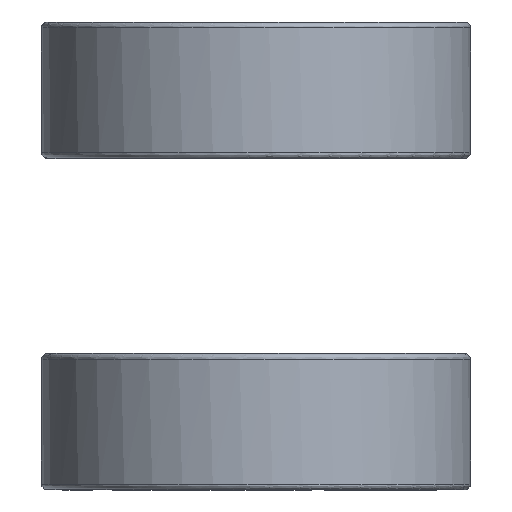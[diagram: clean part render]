
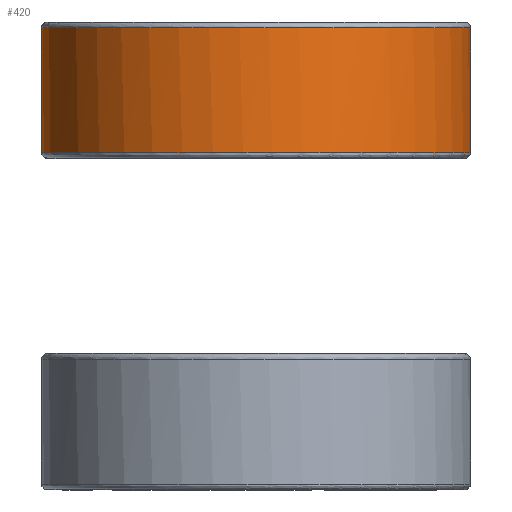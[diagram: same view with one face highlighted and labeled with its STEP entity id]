
A CAD part, left-side view. The second image highlights one B-rep face of the part: STEP entity #420.
In plain terms, the highlighted cylindrical face has radius 11 mm (diameter 22 mm), a partial arc.
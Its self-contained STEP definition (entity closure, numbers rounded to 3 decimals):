
#420=ADVANCED_FACE('',(#804),#5266,.T.);
#804=FACE_OUTER_BOUND('',#1260,.T.);
#1260=EDGE_LOOP('',(#2508,#2509,#2510,#2511));
#2508=ORIENTED_EDGE('',*,*,#3475,.T.);
#2509=ORIENTED_EDGE('',*,*,#3455,.T.);
#2510=ORIENTED_EDGE('',*,*,#3454,.T.);
#2511=ORIENTED_EDGE('',*,*,#3480,.F.);
#3454=EDGE_CURVE('',#4792,#4808,#4287,.T.);
#3455=EDGE_CURVE('',#4790,#4792,#3835,.T.);
#3475=EDGE_CURVE('',#4805,#4790,#4302,.T.);
#3480=EDGE_CURVE('',#4805,#4808,#3842,.T.);
#3835=B_SPLINE_CURVE_WITH_KNOTS('',1,(#11430,#11431),.UNSPECIFIED.,.F.,
 .F.,(2,2),(0.64,7.04),.UNSPECIFIED.);
#3842=B_SPLINE_CURVE_WITH_KNOTS('',1,(#11528,#11529),.UNSPECIFIED.,.F.,
 .F.,(2,2),(0.64,7.04),.UNSPECIFIED.);
#4287=(
BOUNDED_CURVE()
B_SPLINE_CURVE(2,(#11425,#11426,#11427,#11428,#11429),.UNSPECIFIED.,.F.,
 .F.)
B_SPLINE_CURVE_WITH_KNOTS((3,2,3),(0.,17.279,34.558),
 .UNSPECIFIED.)
CURVE()
GEOMETRIC_REPRESENTATION_ITEM()
RATIONAL_B_SPLINE_CURVE((1.,0.707,1.,0.707,1.))
REPRESENTATION_ITEM('')
);
#4302=(
BOUNDED_CURVE()
B_SPLINE_CURVE(2,(#11506,#11507,#11508,#11509,#11510),.UNSPECIFIED.,.F.,
 .F.)
B_SPLINE_CURVE_WITH_KNOTS((3,2,3),(33.615,50.423,67.23),
 .UNSPECIFIED.)
CURVE()
GEOMETRIC_REPRESENTATION_ITEM()
RATIONAL_B_SPLINE_CURVE((1.,0.707,1.,0.707,1.))
REPRESENTATION_ITEM('')
);
#4790=VERTEX_POINT('',#11370);
#4792=VERTEX_POINT('',#11372);
#4805=VERTEX_POINT('',#11385);
#4808=VERTEX_POINT('',#11388);
#5266=CYLINDRICAL_SURFACE('',#5634,11.);
#5634=AXIS2_PLACEMENT_3D('',#11272,#5941,$);
#5941=DIRECTION('',(0.,0.,-1.));
#11272=CARTESIAN_POINT('',(-88.514,-18.1,10.5));
#11370=CARTESIAN_POINT('',(-88.514,-7.1,13.7));
#11372=CARTESIAN_POINT('',(-88.514,-7.1,7.3));
#11385=CARTESIAN_POINT('',(-88.514,-29.1,13.7));
#11388=CARTESIAN_POINT('',(-88.514,-29.1,7.3));
#11425=CARTESIAN_POINT('',(-88.514,-7.1,7.3));
#11426=CARTESIAN_POINT('',(-99.514,-7.1,7.3));
#11427=CARTESIAN_POINT('',(-99.514,-18.1,7.3));
#11428=CARTESIAN_POINT('',(-99.514,-29.1,7.3));
#11429=CARTESIAN_POINT('',(-88.514,-29.1,7.3));
#11430=CARTESIAN_POINT('',(-88.514,-7.1,13.7));
#11431=CARTESIAN_POINT('',(-88.514,-7.1,7.3));
#11506=CARTESIAN_POINT('',(-88.514,-29.1,13.7));
#11507=CARTESIAN_POINT('',(-99.514,-29.1,13.7));
#11508=CARTESIAN_POINT('',(-99.514,-18.1,13.7));
#11509=CARTESIAN_POINT('',(-99.514,-7.1,13.7));
#11510=CARTESIAN_POINT('',(-88.514,-7.1,13.7));
#11528=CARTESIAN_POINT('',(-88.514,-29.1,13.7));
#11529=CARTESIAN_POINT('',(-88.514,-29.1,7.3));
